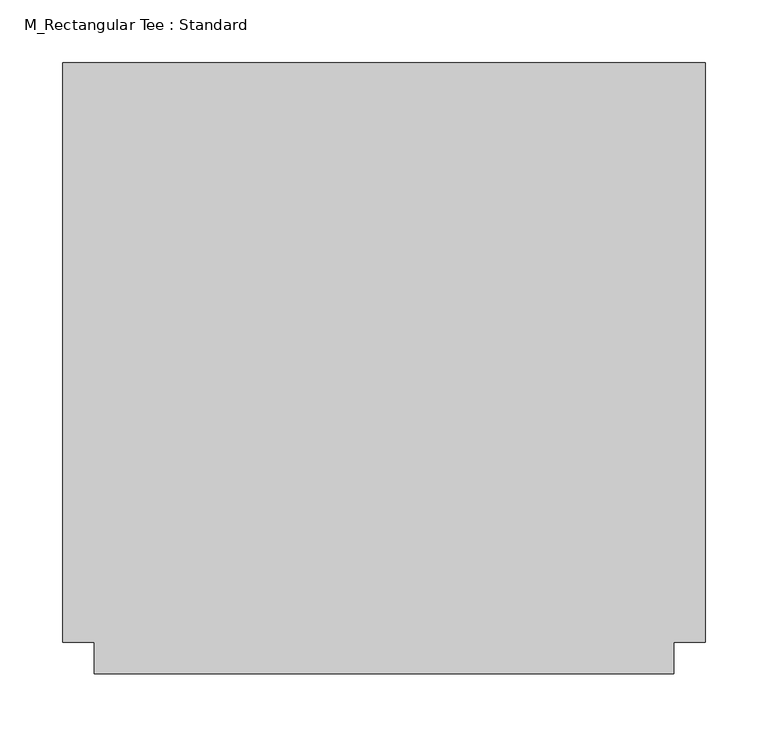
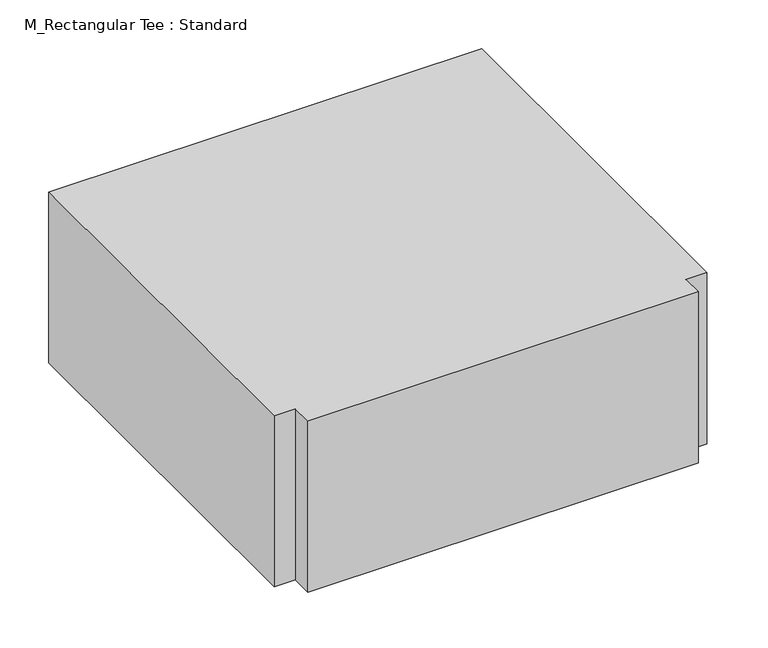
"""IFC4 building model written with IfcOpenShell, lengths in millimetres: duct fitting geometry, M_Rectangular Tee : Standard."""

from ifc_helpers import new_model, si_unit, frame, origin, place, context, project, spatial, polyline, outline, extrude, source, transform, mapped, element, save


def m_rectangular_tee_standard_fa4de0e8(model_context):
    return source(origin(), model_context, "Body", "SweptSolid", [
        extrude(outline(polyline([(-255.9375, -230.9375), (-255.9375, 230.9375), (255.9375, 230.9375), (255.9375, -230.9375), (230.9375, -230.9375), (230.9375, -255.9375), (-230.9375, -255.9375), (-230.9375, -230.9375), (-255.9375, -230.9375)])), frame((0.0, 0.0, -107.15), z_axis=(0.0, 0.0, 1.0), x_axis=(1.0, 0.0, 0.0)), (0.0, 0.0, 1.0), 214.3),
    ])


if __name__ == "__main__":
    model = new_model("IFC4")
    model_context = context("Model", 3, world=origin())
    ifc_project = project(units=[si_unit("LENGTHUNIT", "METRE", prefix="MILLI")], contexts=[model_context])
    site = spatial("IfcSite", under=ifc_project)
    building = spatial("IfcBuilding", under=site)
    placement = place(None, origin())
    m_rectangular_tee_standard_shape = m_rectangular_tee_standard_fa4de0e8(model_context)
    element("IfcDuctFitting", 1, ObjectType="M_Rectangular Tee : Standard", at=placement, inside=building, context=model_context, shape_type="MappedRepresentation", body=[
        mapped(m_rectangular_tee_standard_shape, transform((0.0, 0.0, 0.0), x_axis=(1.0, 0.0, 0.0), y_axis=(0.0, 1.0, 0.0), z_axis=(0.0, 0.0, 1.0))),
    ])
    save(model, "model.ifc")
